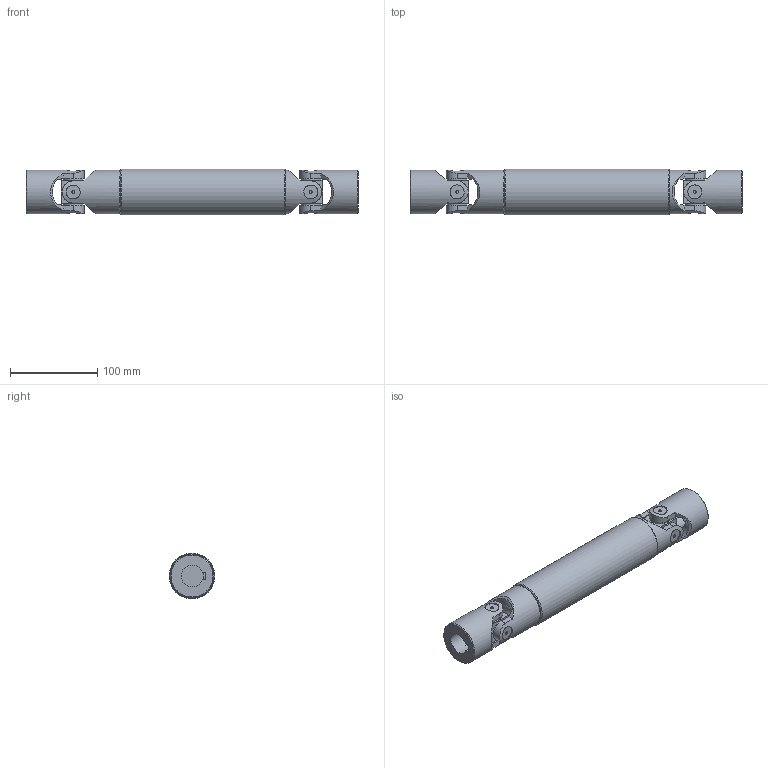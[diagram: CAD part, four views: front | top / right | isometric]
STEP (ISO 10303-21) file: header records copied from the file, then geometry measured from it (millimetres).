
FILE_DESCRIPTION(/* description */ (''),/* implementation_level */ '2;1');
FILE_NAME(/* name */ '\\SRV2016\Societa\Stefano\Disegni 3D\00Catalogo 3D\03Trasmissioni standard GA\5GA23\5GA23_SG0A2523.stp',/* time_stamp */ '2022-03-15T16:33:25+01:00',/* author */ ('acquisti'),/* organization */ (''),/* preprocessor_version */ 'ST-DEVELOPER v15.6',/* originating_system */ 'Autodesk Inventor 2015',/* authorisation */ '');
FILE_SCHEMA (('AUTOMOTIVE_DESIGN { 1 0 10303 214 3 1 1 }'));
Length unit declared in the file: millimetre
Products named in the file (5): 5G MOC; 5G SFE; 5GA23 LAI; 5GA23 LCI; 5GA23_SG0A2523
Assembly tree (6 placements, depth 2):
  5GA23_SG0A2523
    5G MOC  x2
    5G SFE  x2
    5GA23 LAI
    5GA23 LCI
Bounding box: 380 x 52.5 x 52.5 mm (x, y, z)
Volume: 531988.9 mm3; surface area: 137796.6 mm2
Topology: 6 solids, 6 shells, 204 faces, 513 edges, 345 vertices
Faces by surface type: plane 108, cylinder 68, cone 24, torus 4
Full cylindrical faces by diameter (mm): 3 x8, 16 x8, 23 x8, 28 x1, 32.4 x1, 45 x1, 50 x4, 52.5 x1
Entity records: 5370 total; most frequent: CARTESIAN_POINT 1605, DIRECTION 751, ORIENTED_EDGE 742, EDGE_CURVE 371, AXIS2_PLACEMENT_3D 299, VERTEX_POINT 269, EDGE_LOOP 210, FACE_OUTER_BOUND 158
